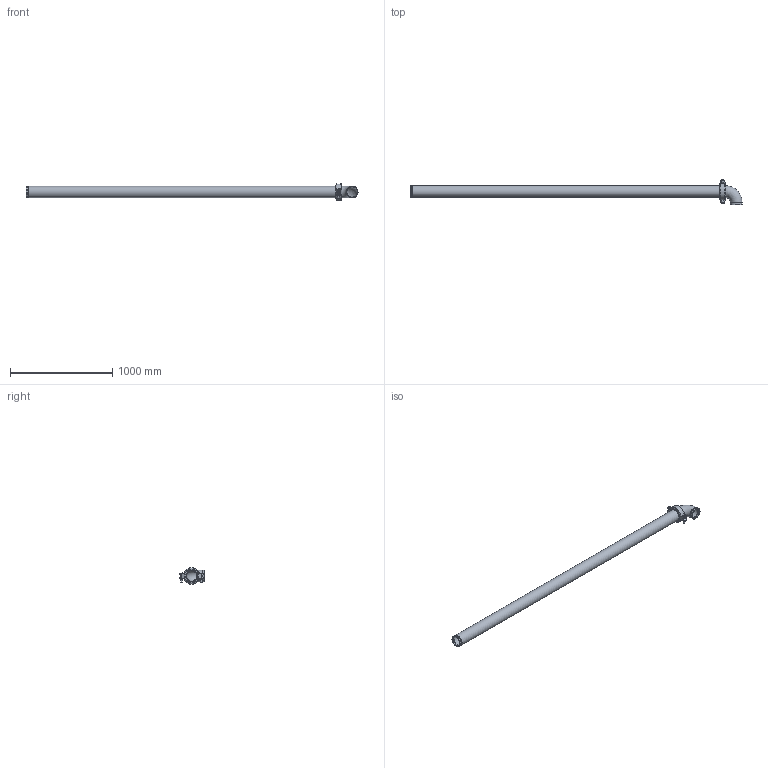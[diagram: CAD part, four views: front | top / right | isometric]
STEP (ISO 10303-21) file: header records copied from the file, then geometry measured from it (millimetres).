
FILE_DESCRIPTION(/* description */ ('VIC LONG RUN FITTING No R23 (OGS)','CAx-IF Rec.Pracs.---Representation and Presentation of Product Manufacturing Information (PMI)---4.0---2014-10-13'),/* implementation_level */ '2;1');
FILE_NAME(/* name */ 'C:\Users\Vjadhav\AppData\Roaming\Autodesk\ApplicationPlugins\Back Up\Victaulic_IPS_Long Run Fittings_No R23 (OGS)\Victaulic_IPS_Long Run Fittings_No R23 (OGS)_4 (100).stp',/* time_stamp */ '2020-10-06T20:01:53+06:00',/* author */ ('Vjadhav'),/* organization */ ('Victaulic'),/* preprocessor_version */ 'ST-DEVELOPER v17.2',/* originating_system */ 'Autodesk Inventor 2019',/* authorisation */ '');
FILE_SCHEMA (('AP242_MANAGED_MODEL_BASED_3D_ENGINEERING_MIM_LF { 1 0 10303 442 1 1 4 }'));
Length unit declared in the file: inch
Products named in the file (4): R23-04.0; 010-04.0; 177N-04.0; Pipe_R13-04.0
Assembly tree (3 placements, depth 2):
  R23-04.0
    010-04.0
    177N-04.0
    Pipe_R13-04.0
Bounding box: 3241.8 x 245.56 x 161.45 mm (x, y, z)
Volume: 7377275.5 mm3; surface area: 2326250.8 mm2
Topology: 3 solids, 3 shells, 117 faces, 305 edges, 206 vertices
Faces by surface type: plane 68, cylinder 37, torus 6, cone 4, sphere 2
Full cylindrical faces by diameter (mm): 15.875 x2, 23.495 x2, 101.6 x1, 102.26 x3, 110.084 x4, 114.3 x7
Entity records: 4268 total; most frequent: CARTESIAN_POINT 971, DIRECTION 661, ORIENTED_EDGE 618, EDGE_CURVE 309, AXIS2_PLACEMENT_3D 248, VERTEX_POINT 206, LINE 165, VECTOR 165
